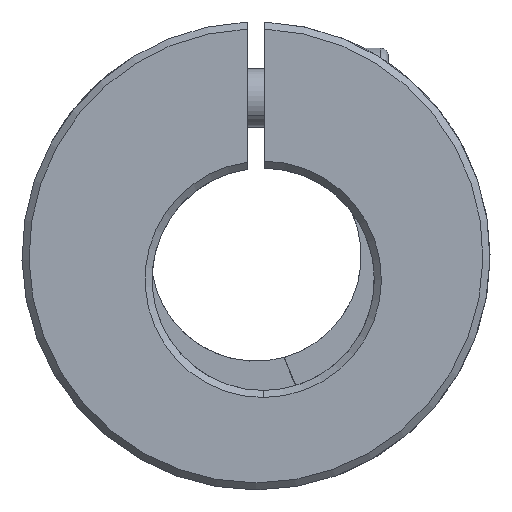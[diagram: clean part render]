
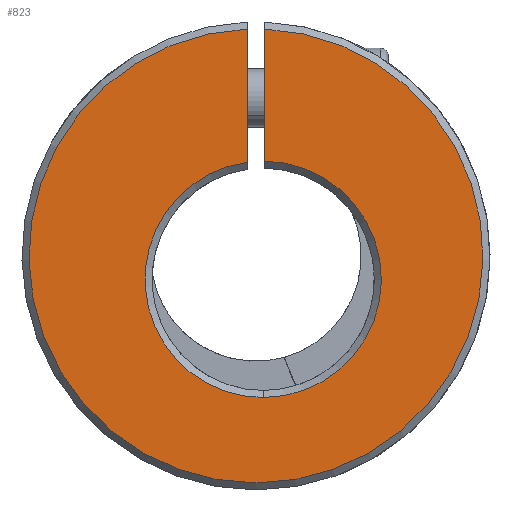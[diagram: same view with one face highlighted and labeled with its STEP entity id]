
A CAD part, front view. The second image highlights one B-rep face of the part: STEP entity #823.
In plain terms, the highlighted planar face has unit normal (0, -1, 0).
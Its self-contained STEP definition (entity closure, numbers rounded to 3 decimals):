
#111 = VECTOR ( 'NONE', #5726, 1000. ) ;
#191 = AXIS2_PLACEMENT_3D ( 'NONE', #5606, #2387, #5636 ) ;
#206 = CIRCLE ( 'NONE', #5491, 19.4 ) ;
#266 = FACE_OUTER_BOUND ( 'NONE', #315, .T. ) ;
#315 = EDGE_LOOP ( 'NONE', ( #4407, #4177, #1978, #3343, #566 ) ) ;
#566 = ORIENTED_EDGE ( 'NONE', *, *, #5319, .T. ) ;
#613 = DIRECTION ( 'NONE',  ( 0., 0., -1. ) ) ;
#701 = CARTESIAN_POINT ( 'NONE',  ( 0.75, -30., 19.385 ) ) ;
#716 = DIRECTION ( 'NONE',  ( 0., -1., 0. ) ) ;
#823 = ADVANCED_FACE ( 'NONE', ( #266 ), #3903, .F. ) ;
#828 = CARTESIAN_POINT ( 'NONE',  ( 0., -30., 0. ) ) ;
#878 = AXIS2_PLACEMENT_3D ( 'NONE', #828, #2186, #5262 ) ;
#1283 = LINE ( 'NONE', #5317, #111 ) ;
#1411 = LINE ( 'NONE', #3210, #3385 ) ;
#1778 = CARTESIAN_POINT ( 'NONE',  ( 0.617, -30., -12.1 ) ) ;
#1785 = CARTESIAN_POINT ( 'NONE',  ( -0.75, -30., 19.385 ) ) ;
#1978 = ORIENTED_EDGE ( 'NONE', *, *, #4263, .T. ) ;
#2186 = DIRECTION ( 'NONE',  ( 0., 1., 0. ) ) ;
#2240 = VERTEX_POINT ( 'NONE', #2398 ) ;
#2255 = EDGE_CURVE ( 'NONE', #2386, #2240, #1411, .T. ) ;
#2258 = AXIS2_PLACEMENT_3D ( 'NONE', #4745, #4797, #4382 ) ;
#2386 = VERTEX_POINT ( 'NONE', #701 ) ;
#2387 = DIRECTION ( 'NONE',  ( 0., 1., 0. ) ) ;
#2398 = CARTESIAN_POINT ( 'NONE',  ( 0.75, -30., 8.099 ) ) ;
#2542 = VERTEX_POINT ( 'NONE', #1785 ) ;
#2893 = CIRCLE ( 'NONE', #2258, 10.1 ) ;
#2914 = VERTEX_POINT ( 'NONE', #1778 ) ;
#3210 = CARTESIAN_POINT ( 'NONE',  ( 0.75, -30., -2. ) ) ;
#3271 = EDGE_CURVE ( 'NONE', #2240, #2914, #2893, .T. ) ;
#3309 = CARTESIAN_POINT ( 'NONE',  ( 0., -30., 0. ) ) ;
#3343 = ORIENTED_EDGE ( 'NONE', *, *, #5435, .T. ) ;
#3364 = DIRECTION ( 'NONE',  ( 0., 0., 1. ) ) ;
#3385 = VECTOR ( 'NONE', #613, 1000. ) ;
#3719 = CARTESIAN_POINT ( 'NONE',  ( -0.75, -30., 8.007 ) ) ;
#3903 = PLANE ( 'NONE',  #878 ) ;
#4177 = ORIENTED_EDGE ( 'NONE', *, *, #3271, .T. ) ;
#4263 = EDGE_CURVE ( 'NONE', #2914, #5200, #4524, .T. ) ;
#4382 = DIRECTION ( 'NONE',  ( 0., 0., 1. ) ) ;
#4407 = ORIENTED_EDGE ( 'NONE', *, *, #2255, .T. ) ;
#4524 = CIRCLE ( 'NONE', #191, 10.1 ) ;
#4745 = CARTESIAN_POINT ( 'NONE',  ( 0.617, -30., -2. ) ) ;
#4797 = DIRECTION ( 'NONE',  ( 0., 1., 0. ) ) ;
#5200 = VERTEX_POINT ( 'NONE', #3719 ) ;
#5262 = DIRECTION ( 'NONE',  ( 0., 0., 1. ) ) ;
#5317 = CARTESIAN_POINT ( 'NONE',  ( -0.75, -30., -2. ) ) ;
#5319 = EDGE_CURVE ( 'NONE', #2542, #2386, #206, .T. ) ;
#5435 = EDGE_CURVE ( 'NONE', #5200, #2542, #1283, .T. ) ;
#5491 = AXIS2_PLACEMENT_3D ( 'NONE', #3309, #716, #3364 ) ;
#5606 = CARTESIAN_POINT ( 'NONE',  ( 0.617, -30., -2. ) ) ;
#5636 = DIRECTION ( 'NONE',  ( 0., 0., 1. ) ) ;
#5726 = DIRECTION ( 'NONE',  ( 0., 0., 1. ) ) ;
